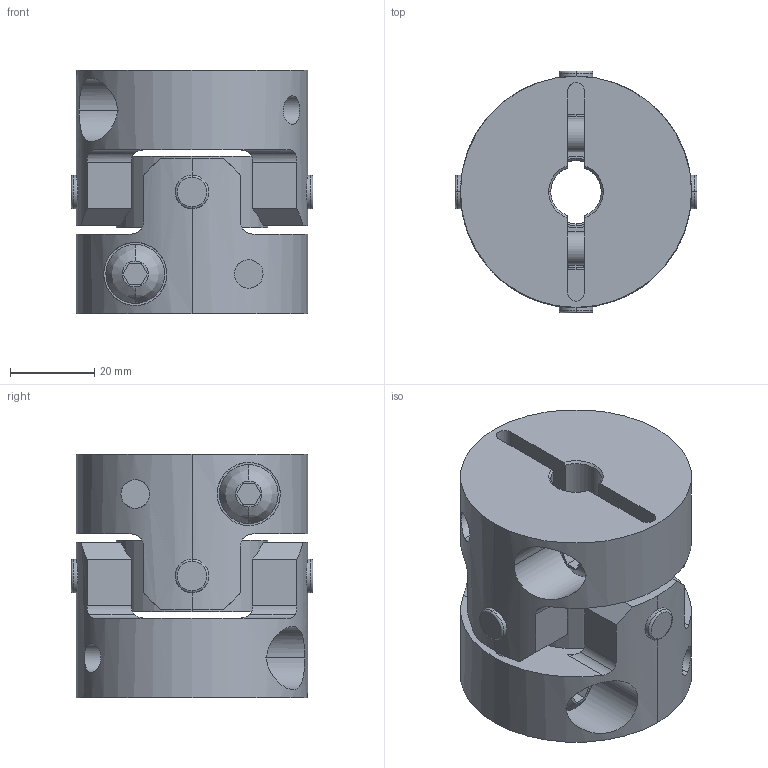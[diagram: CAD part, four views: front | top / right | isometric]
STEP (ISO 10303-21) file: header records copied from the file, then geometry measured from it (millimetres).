
FILE_DESCRIPTION((''),'2;1');
FILE_NAME('UA-55C-12×15.stp','2013-05-22T12:01:59',(''),(''),'AutoCAD STEP 2000i','AutoCAD 2000i',', , ');
FILE_SCHEMA(('CONFIG_CONTROL_DESIGN'));
Length unit declared in the file: millimetre
Products named in the file (6): UA-55C-10×10; 忣兜1; UA-5502-D10-1; BTN-M8; UA-5502-D10; UA55-SEN
Assembly tree (6 placements, depth 3):
  UA-55C-10×10
    忣兜1
    UA-5502-D10-1
      BTN-M8
    UA-5502-D10
      BTN-M8
    UA55-SEN
Bounding box: 57.55 x 57.55 x 58 mm (x, y, z)
Volume: 99889.1 mm3; surface area: 31840.1 mm2
Topology: 1 solids, 1 shells, 206 faces, 554 edges, 364 vertices
Faces by surface type: cylinder 96, plane 78, cone 16, bspline 8, torus 8
Entity records: 8383 total; most frequent: CARTESIAN_POINT 3067, ORIENTED_EDGE 1108, DIRECTION 1064, EDGE_CURVE 554, AXIS2_PLACEMENT_3D 409, VERTEX_POINT 364, VECTOR 246, LINE 246
